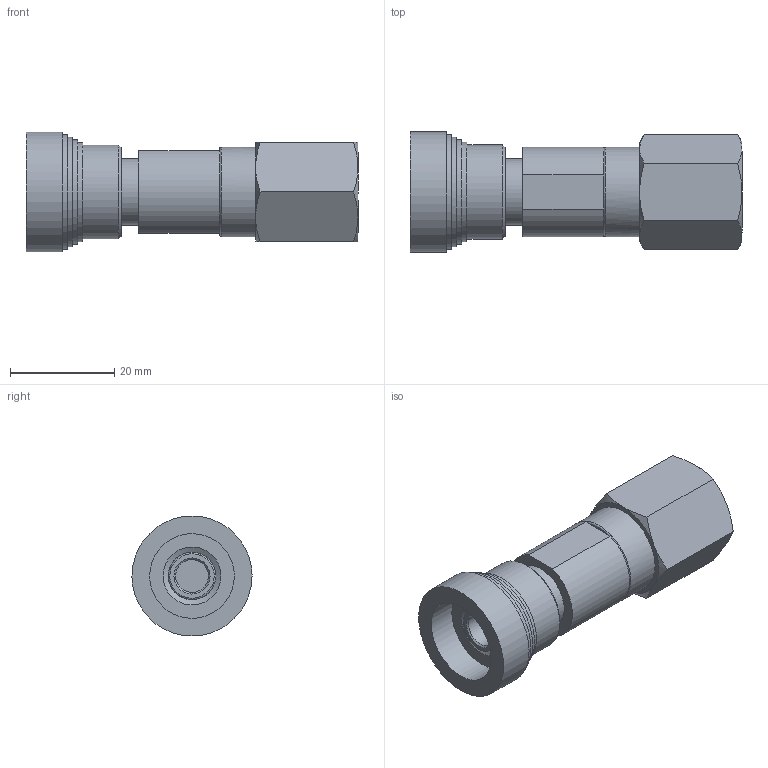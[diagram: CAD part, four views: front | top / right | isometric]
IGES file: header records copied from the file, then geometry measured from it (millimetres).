
Global section: file name: SQC1B-F4N; native system: Autodesk Inventor 2016; preprocessor: unknown; author: 이승민,,11,0; organization: 20170206.114357; date: 20170208.203346; units: millimetre
Bounding box: 63.57 x 23 x 22.96 mm (x, y, z)
Volume: 14039.5 mm3; surface area: 6148.8 mm2
Topology: 1 solids, 1 shells, 62 faces, 154 edges, 107 vertices
Faces by surface type: bspline 62
